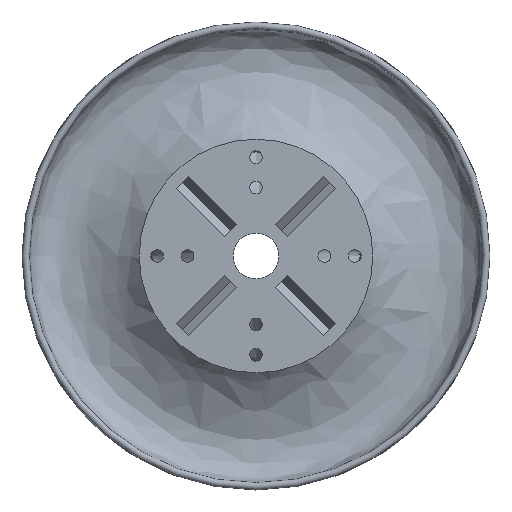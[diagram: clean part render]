
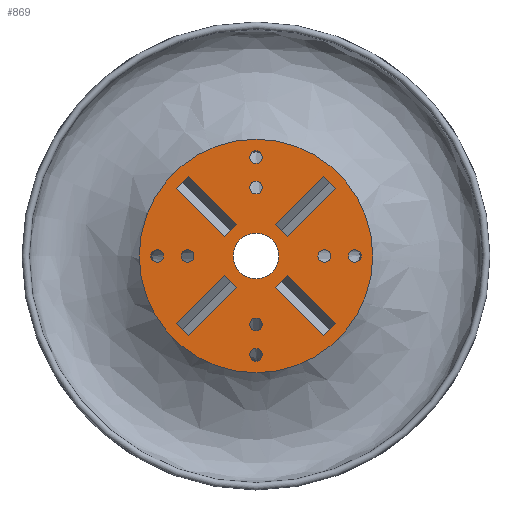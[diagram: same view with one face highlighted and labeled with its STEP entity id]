
A CAD part, left-side view. The second image highlights one B-rep face of the part: STEP entity #869.
In plain terms, the highlighted planar face has unit normal (-1, 0, 0).
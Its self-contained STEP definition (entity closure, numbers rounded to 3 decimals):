
#15=FACE_BOUND('',#198,.T.);
#16=FACE_BOUND('',#199,.T.);
#17=FACE_BOUND('',#200,.T.);
#18=FACE_BOUND('',#201,.T.);
#19=FACE_BOUND('',#202,.T.);
#20=FACE_BOUND('',#203,.T.);
#21=FACE_BOUND('',#204,.T.);
#22=FACE_BOUND('',#205,.T.);
#23=FACE_BOUND('',#206,.T.);
#24=FACE_BOUND('',#207,.T.);
#25=FACE_BOUND('',#208,.T.);
#26=FACE_BOUND('',#209,.T.);
#27=FACE_BOUND('',#210,.T.);
#59=CIRCLE('',#903,3.5);
#61=CIRCLE('',#906,3.5);
#63=CIRCLE('',#909,3.5);
#65=CIRCLE('',#912,3.5);
#81=CIRCLE('',#941,3.5);
#83=CIRCLE('',#944,3.5);
#85=CIRCLE('',#947,3.5);
#87=CIRCLE('',#950,3.5);
#92=CIRCLE('',#956,12.7);
#93=CIRCLE('',#958,64.947);
#151=FACE_OUTER_BOUND('',#197,.T.);
#197=EDGE_LOOP('',(#745));
#198=EDGE_LOOP('',(#746,#747,#748,#749));
#199=EDGE_LOOP('',(#750,#751,#752,#753));
#200=EDGE_LOOP('',(#754,#755,#756,#757));
#201=EDGE_LOOP('',(#758,#759,#760,#761));
#202=EDGE_LOOP('',(#762));
#203=EDGE_LOOP('',(#763));
#204=EDGE_LOOP('',(#764));
#205=EDGE_LOOP('',(#765));
#206=EDGE_LOOP('',(#766));
#207=EDGE_LOOP('',(#767));
#208=EDGE_LOOP('',(#768));
#209=EDGE_LOOP('',(#769));
#210=EDGE_LOOP('',(#770));
#222=LINE('',#1189,#291);
#226=LINE('',#1197,#295);
#228=LINE('',#1201,#297);
#230=LINE('',#1204,#299);
#231=LINE('',#1208,#300);
#235=LINE('',#1216,#304);
#237=LINE('',#1220,#306);
#239=LINE('',#1223,#308);
#240=LINE('',#1227,#309);
#244=LINE('',#1235,#313);
#246=LINE('',#1239,#315);
#248=LINE('',#1242,#317);
#249=LINE('',#1246,#318);
#253=LINE('',#1254,#322);
#255=LINE('',#1258,#324);
#257=LINE('',#1261,#326);
#291=VECTOR('',#966,10.);
#295=VECTOR('',#972,10.);
#297=VECTOR('',#976,10.);
#299=VECTOR('',#980,10.);
#300=VECTOR('',#983,10.);
#304=VECTOR('',#989,10.);
#306=VECTOR('',#993,10.);
#308=VECTOR('',#997,10.);
#309=VECTOR('',#1000,10.);
#313=VECTOR('',#1006,10.);
#315=VECTOR('',#1010,10.);
#317=VECTOR('',#1014,10.);
#318=VECTOR('',#1017,10.);
#322=VECTOR('',#1023,10.);
#324=VECTOR('',#1027,10.);
#326=VECTOR('',#1031,10.);
#360=VERTEX_POINT('',#1187);
#361=VERTEX_POINT('',#1188);
#364=VERTEX_POINT('',#1196);
#365=VERTEX_POINT('',#1200);
#366=VERTEX_POINT('',#1206);
#367=VERTEX_POINT('',#1207);
#370=VERTEX_POINT('',#1215);
#371=VERTEX_POINT('',#1219);
#372=VERTEX_POINT('',#1225);
#373=VERTEX_POINT('',#1226);
#376=VERTEX_POINT('',#1234);
#377=VERTEX_POINT('',#1238);
#378=VERTEX_POINT('',#1244);
#379=VERTEX_POINT('',#1245);
#382=VERTEX_POINT('',#1253);
#383=VERTEX_POINT('',#1257);
#384=VERTEX_POINT('',#1263);
#386=VERTEX_POINT('',#1269);
#388=VERTEX_POINT('',#1275);
#390=VERTEX_POINT('',#1281);
#427=VERTEX_POINT('',#2022);
#429=VERTEX_POINT('',#2028);
#431=VERTEX_POINT('',#2034);
#433=VERTEX_POINT('',#2040);
#437=VERTEX_POINT('',#4751);
#438=VERTEX_POINT('',#5054);
#440=EDGE_CURVE('',#360,#361,#222,.T.);
#444=EDGE_CURVE('',#361,#364,#226,.T.);
#446=EDGE_CURVE('',#364,#365,#228,.T.);
#448=EDGE_CURVE('',#365,#360,#230,.T.);
#449=EDGE_CURVE('',#366,#367,#231,.T.);
#453=EDGE_CURVE('',#367,#370,#235,.T.);
#455=EDGE_CURVE('',#370,#371,#237,.T.);
#457=EDGE_CURVE('',#371,#366,#239,.T.);
#458=EDGE_CURVE('',#372,#373,#240,.T.);
#462=EDGE_CURVE('',#373,#376,#244,.T.);
#464=EDGE_CURVE('',#376,#377,#246,.T.);
#466=EDGE_CURVE('',#377,#372,#248,.T.);
#467=EDGE_CURVE('',#378,#379,#249,.T.);
#471=EDGE_CURVE('',#379,#382,#253,.T.);
#473=EDGE_CURVE('',#382,#383,#255,.T.);
#475=EDGE_CURVE('',#383,#378,#257,.T.);
#476=EDGE_CURVE('',#384,#384,#59,.T.);
#479=EDGE_CURVE('',#386,#386,#61,.T.);
#482=EDGE_CURVE('',#388,#388,#63,.T.);
#485=EDGE_CURVE('',#390,#390,#65,.T.);
#540=EDGE_CURVE('',#427,#427,#81,.T.);
#543=EDGE_CURVE('',#429,#429,#83,.T.);
#546=EDGE_CURVE('',#431,#431,#85,.T.);
#549=EDGE_CURVE('',#433,#433,#87,.T.);
#556=EDGE_CURVE('',#437,#437,#92,.T.);
#557=EDGE_CURVE('',#438,#438,#93,.T.);
#745=ORIENTED_EDGE('',*,*,#557,.F.);
#746=ORIENTED_EDGE('',*,*,#446,.T.);
#747=ORIENTED_EDGE('',*,*,#448,.T.);
#748=ORIENTED_EDGE('',*,*,#440,.T.);
#749=ORIENTED_EDGE('',*,*,#444,.T.);
#750=ORIENTED_EDGE('',*,*,#455,.T.);
#751=ORIENTED_EDGE('',*,*,#457,.T.);
#752=ORIENTED_EDGE('',*,*,#449,.T.);
#753=ORIENTED_EDGE('',*,*,#453,.T.);
#754=ORIENTED_EDGE('',*,*,#464,.T.);
#755=ORIENTED_EDGE('',*,*,#466,.T.);
#756=ORIENTED_EDGE('',*,*,#458,.T.);
#757=ORIENTED_EDGE('',*,*,#462,.T.);
#758=ORIENTED_EDGE('',*,*,#473,.T.);
#759=ORIENTED_EDGE('',*,*,#475,.T.);
#760=ORIENTED_EDGE('',*,*,#467,.T.);
#761=ORIENTED_EDGE('',*,*,#471,.T.);
#762=ORIENTED_EDGE('',*,*,#476,.T.);
#763=ORIENTED_EDGE('',*,*,#479,.T.);
#764=ORIENTED_EDGE('',*,*,#482,.T.);
#765=ORIENTED_EDGE('',*,*,#485,.T.);
#766=ORIENTED_EDGE('',*,*,#540,.T.);
#767=ORIENTED_EDGE('',*,*,#543,.T.);
#768=ORIENTED_EDGE('',*,*,#546,.T.);
#769=ORIENTED_EDGE('',*,*,#549,.T.);
#770=ORIENTED_EDGE('',*,*,#556,.T.);
#824=PLANE('',#957);
#869=ADVANCED_FACE('',(#151,#15,#16,#17,#18,#19,#20,#21,#22,#23,#24,#25,
#26,#27),#824,.T.);
#903=AXIS2_PLACEMENT_3D('',#1264,#1034,#1035);
#906=AXIS2_PLACEMENT_3D('',#1270,#1041,#1042);
#909=AXIS2_PLACEMENT_3D('',#1276,#1048,#1049);
#912=AXIS2_PLACEMENT_3D('',#1282,#1055,#1056);
#941=AXIS2_PLACEMENT_3D('',#2023,#1138,#1139);
#944=AXIS2_PLACEMENT_3D('',#2029,#1145,#1146);
#947=AXIS2_PLACEMENT_3D('',#2035,#1152,#1153);
#950=AXIS2_PLACEMENT_3D('',#2041,#1159,#1160);
#956=AXIS2_PLACEMENT_3D('',#5052,#1172,#1173);
#957=AXIS2_PLACEMENT_3D('',#5053,#1174,#1175);
#958=AXIS2_PLACEMENT_3D('',#5055,#1176,#1177);
#966=DIRECTION('',(0.,0.707,0.707));
#972=DIRECTION('',(0.,-0.707,0.707));
#976=DIRECTION('',(0.,-0.707,-0.707));
#980=DIRECTION('',(0.,0.707,-0.707));
#983=DIRECTION('',(0.,0.707,-0.707));
#989=DIRECTION('',(0.,0.707,0.707));
#993=DIRECTION('',(0.,-0.707,0.707));
#997=DIRECTION('',(0.,-0.707,-0.707));
#1000=DIRECTION('',(0.,-0.707,-0.707));
#1006=DIRECTION('',(0.,0.707,-0.707));
#1010=DIRECTION('',(0.,0.707,0.707));
#1014=DIRECTION('',(0.,-0.707,0.707));
#1017=DIRECTION('',(0.,-0.707,0.707));
#1023=DIRECTION('',(0.,-0.707,-0.707));
#1027=DIRECTION('',(0.,0.707,-0.707));
#1031=DIRECTION('',(0.,0.707,0.707));
#1034=DIRECTION('center_axis',(1.,0.,0.));
#1035=DIRECTION('ref_axis',(0.,-1.,0.));
#1041=DIRECTION('center_axis',(1.,0.,0.));
#1042=DIRECTION('ref_axis',(0.,-1.,0.));
#1048=DIRECTION('center_axis',(1.,0.,0.));
#1049=DIRECTION('ref_axis',(0.,-1.,0.));
#1055=DIRECTION('center_axis',(1.,0.,0.));
#1056=DIRECTION('ref_axis',(0.,-1.,0.));
#1138=DIRECTION('center_axis',(1.,0.,0.));
#1139=DIRECTION('ref_axis',(0.,-1.,0.));
#1145=DIRECTION('center_axis',(1.,0.,0.));
#1146=DIRECTION('ref_axis',(0.,-1.,0.));
#1152=DIRECTION('center_axis',(1.,0.,0.));
#1153=DIRECTION('ref_axis',(0.,-1.,0.));
#1159=DIRECTION('center_axis',(1.,0.,0.));
#1160=DIRECTION('ref_axis',(0.,-1.,0.));
#1172=DIRECTION('center_axis',(1.,0.,0.));
#1173=DIRECTION('ref_axis',(0.,0.,-1.));
#1174=DIRECTION('center_axis',(-1.,0.,0.));
#1175=DIRECTION('ref_axis',(0.,0.,1.));
#1176=DIRECTION('center_axis',(1.,0.,0.));
#1177=DIRECTION('ref_axis',(0.,0.,-1.));
#1187=CARTESIAN_POINT('',(0.,17.607,10.677));
#1188=CARTESIAN_POINT('',(0.,44.477,37.547));
#1189=CARTESIAN_POINT('',(0.,26.773,19.843));
#1196=CARTESIAN_POINT('',(0.,37.547,44.477));
#1197=CARTESIAN_POINT('',(0.,57.249,24.776));
#1200=CARTESIAN_POINT('',(0.,10.677,17.607));
#1201=CARTESIAN_POINT('',(0.,19.843,26.773));
#1204=CARTESIAN_POINT('',(0.,30.379,-2.095));
#1206=CARTESIAN_POINT('',(0.,10.677,-17.607));
#1207=CARTESIAN_POINT('',(0.,37.547,-44.477));
#1208=CARTESIAN_POINT('',(0.,19.843,-26.773));
#1215=CARTESIAN_POINT('',(0.,44.477,-37.547));
#1216=CARTESIAN_POINT('',(0.,57.249,-24.776));
#1219=CARTESIAN_POINT('',(0.,17.607,-10.677));
#1220=CARTESIAN_POINT('',(0.,26.773,-19.843));
#1223=CARTESIAN_POINT('',(0.,30.379,2.095));
#1225=CARTESIAN_POINT('',(0.,-17.607,-10.677));
#1226=CARTESIAN_POINT('',(0.,-44.477,-37.547));
#1227=CARTESIAN_POINT('',(0.,5.701,12.63));
#1234=CARTESIAN_POINT('',(0.,-37.547,-44.477));
#1235=CARTESIAN_POINT('',(0.,-24.776,-57.249));
#1238=CARTESIAN_POINT('',(0.,-10.677,-17.607));
#1239=CARTESIAN_POINT('',(0.,12.63,5.701));
#1242=CARTESIAN_POINT('',(0.,2.095,-30.379));
#1244=CARTESIAN_POINT('',(0.,-10.677,17.607));
#1245=CARTESIAN_POINT('',(0.,-37.547,44.477));
#1246=CARTESIAN_POINT('',(0.,12.63,-5.701));
#1253=CARTESIAN_POINT('',(0.,-44.477,37.547));
#1254=CARTESIAN_POINT('',(0.,-24.776,57.249));
#1257=CARTESIAN_POINT('',(0.,-17.607,10.677));
#1258=CARTESIAN_POINT('',(0.,5.701,-12.63));
#1261=CARTESIAN_POINT('',(0.,2.095,30.379));
#1263=CARTESIAN_POINT('',(0.,58.5,0.));
#1264=CARTESIAN_POINT('Origin',(0.,55.,0.));
#1269=CARTESIAN_POINT('',(0.,3.5,-55.));
#1270=CARTESIAN_POINT('Origin',(0.,0.,-55.));
#1275=CARTESIAN_POINT('',(0.,3.5,55.));
#1276=CARTESIAN_POINT('Origin',(0.,0.,55.));
#1281=CARTESIAN_POINT('',(0.,-51.5,0.));
#1282=CARTESIAN_POINT('Origin',(0.,-55.,0.));
#2022=CARTESIAN_POINT('',(0.,-34.5,0.));
#2023=CARTESIAN_POINT('Origin',(0.,-38.,0.));
#2028=CARTESIAN_POINT('',(0.,3.5,-38.));
#2029=CARTESIAN_POINT('Origin',(0.,0.,-38.));
#2034=CARTESIAN_POINT('',(0.,41.5,0.));
#2035=CARTESIAN_POINT('Origin',(0.,38.,0.));
#2040=CARTESIAN_POINT('',(0.,3.5,38.));
#2041=CARTESIAN_POINT('Origin',(0.,0.,38.));
#4751=CARTESIAN_POINT('',(0.,12.7,0.));
#5052=CARTESIAN_POINT('Origin',(0.,0.,0.));
#5053=CARTESIAN_POINT('Origin',(0.,64.947,0.));
#5054=CARTESIAN_POINT('',(0.,-64.947,0.));
#5055=CARTESIAN_POINT('Origin',(0.,0.,0.));
